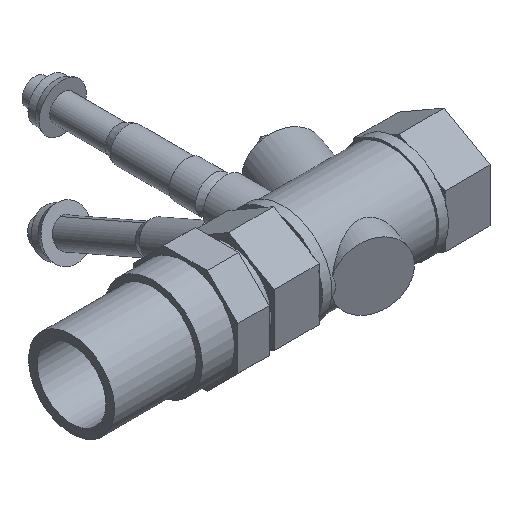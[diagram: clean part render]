
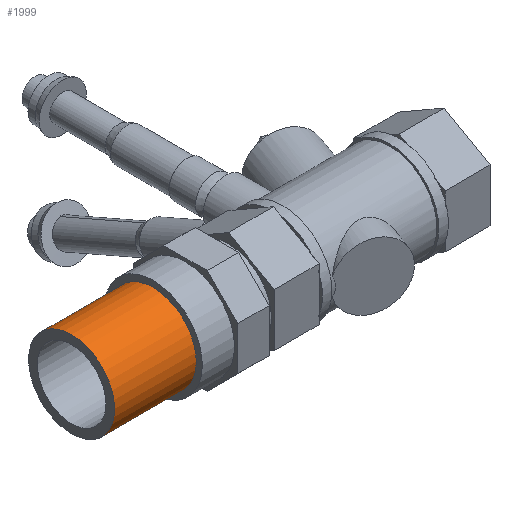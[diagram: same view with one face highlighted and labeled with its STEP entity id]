
A CAD part, isometric view. The second image highlights one B-rep face of the part: STEP entity #1999.
In plain terms, the highlighted cylindrical face has radius 16.701 mm (diameter 33.401 mm), a full revolution.
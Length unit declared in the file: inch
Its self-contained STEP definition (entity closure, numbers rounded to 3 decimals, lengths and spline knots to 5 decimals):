
#173=CYLINDRICAL_SURFACE('',#2239,0.6575);
#271=FACE_OUTER_BOUND('',#392,.T.);
#392=EDGE_LOOP('',(#1700,#1701,#1702,#1703,#1704,#1705));
#508=CIRCLE('',#2231,0.6575);
#509=CIRCLE('',#2232,0.6575);
#514=CIRCLE('',#2240,0.6575);
#515=CIRCLE('',#2241,0.6575);
#634=LINE('',#3546,#771);
#771=VECTOR('',#2800,0.6575);
#942=VERTEX_POINT('',#3527);
#943=VERTEX_POINT('',#3528);
#948=VERTEX_POINT('',#3543);
#949=VERTEX_POINT('',#3544);
#1198=EDGE_CURVE('',#942,#943,#508,.T.);
#1199=EDGE_CURVE('',#943,#942,#509,.T.);
#1205=EDGE_CURVE('',#948,#949,#514,.T.);
#1206=EDGE_CURVE('',#949,#943,#634,.T.);
#1207=EDGE_CURVE('',#949,#948,#515,.T.);
#1700=ORIENTED_EDGE('',*,*,#1205,.T.);
#1701=ORIENTED_EDGE('',*,*,#1206,.T.);
#1702=ORIENTED_EDGE('',*,*,#1199,.T.);
#1703=ORIENTED_EDGE('',*,*,#1198,.T.);
#1704=ORIENTED_EDGE('',*,*,#1206,.F.);
#1705=ORIENTED_EDGE('',*,*,#1207,.T.);
#1999=ADVANCED_FACE('',(#271),#173,.T.);
#2231=AXIS2_PLACEMENT_3D('',#3529,#2779,#2780);
#2232=AXIS2_PLACEMENT_3D('',#3530,#2781,#2782);
#2239=AXIS2_PLACEMENT_3D('',#3542,#2796,#2797);
#2240=AXIS2_PLACEMENT_3D('',#3545,#2798,#2799);
#2241=AXIS2_PLACEMENT_3D('',#3547,#2801,#2802);
#2779=DIRECTION('center_axis',(1.,0.,0.));
#2780=DIRECTION('ref_axis',(0.,0.,-1.));
#2781=DIRECTION('center_axis',(1.,0.,0.));
#2782=DIRECTION('ref_axis',(0.,0.,-1.));
#2796=DIRECTION('center_axis',(1.,0.,0.));
#2797=DIRECTION('ref_axis',(0.,1.,0.));
#2798=DIRECTION('center_axis',(-1.,0.,0.));
#2799=DIRECTION('ref_axis',(0.,1.,0.));
#2800=DIRECTION('',(-1.,0.,0.));
#2801=DIRECTION('center_axis',(-1.,0.,0.));
#2802=DIRECTION('ref_axis',(0.,1.,0.));
#3527=CARTESIAN_POINT('',(-4.05,0.6575,0.));
#3528=CARTESIAN_POINT('',(-4.05,-0.6575,0.));
#3529=CARTESIAN_POINT('Origin',(-4.05,0.,0.));
#3530=CARTESIAN_POINT('Origin',(-4.05,0.,0.));
#3542=CARTESIAN_POINT('Origin',(-2.50625,0.,0.));
#3543=CARTESIAN_POINT('',(-2.8,0.6575,0.));
#3544=CARTESIAN_POINT('',(-2.8,-0.6575,0.));
#3545=CARTESIAN_POINT('Origin',(-2.8,0.,0.));
#3546=CARTESIAN_POINT('',(-2.50625,-0.6575,0.));
#3547=CARTESIAN_POINT('Origin',(-2.8,0.,0.));
